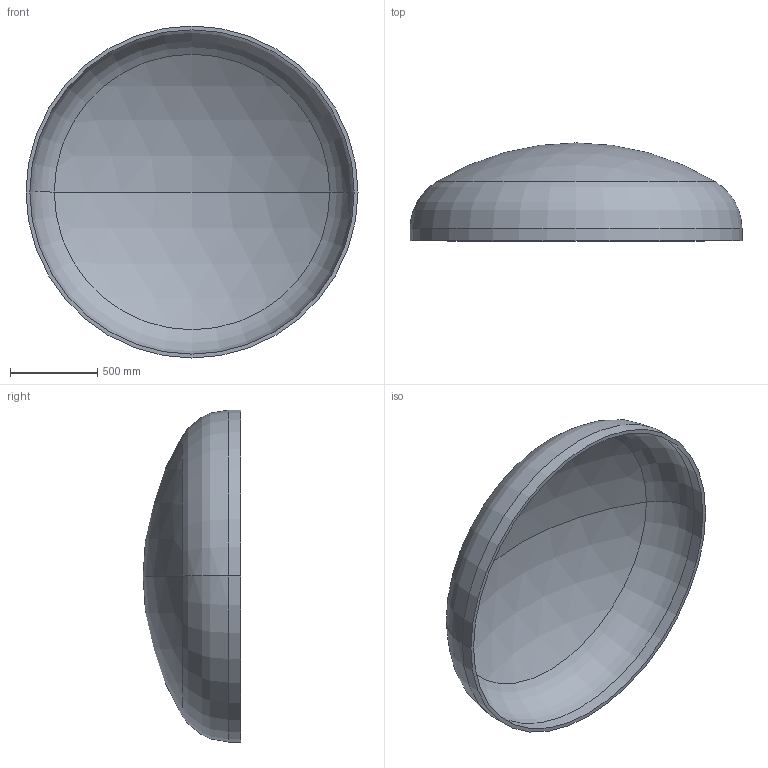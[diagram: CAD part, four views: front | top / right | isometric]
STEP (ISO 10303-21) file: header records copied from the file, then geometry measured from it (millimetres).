
FILE_DESCRIPTION (( 'STEP AP203' ), '1' );
FILE_NAME ('DIN 28013 Korbbogenform_-_Boden DIN 28013 - 1900 x 70 - I - s=22.step', '2016-07-01T13:00:07', ( '' ), ( '' ), 'SwSTEP 2.0', 'SolidWorks 2013', '' );
FILE_SCHEMA (( 'CONFIG_CONTROL_DESIGN' ));
Length unit declared in the file: millimetre
Products named in the file (1): DIN 28013 Korbbogenform_-_Boden DIN 28013 - 1900 x 70 - I - s=22
Bounding box: 1900 x 560.4 x 1900 mm (x, y, z)
Volume: 94015012.1 mm3; surface area: 8677627.9 mm2
Topology: 1 solids, 1 shells, 13 faces, 24 edges, 14 vertices
Faces by surface type: torus 4, cylinder 4, sphere 4, plane 1
Entity records: 407 total; most frequent: DIRECTION 72, CARTESIAN_POINT 52, ORIENTED_EDGE 48, AXIS2_PLACEMENT_3D 34, EDGE_CURVE 24, CIRCLE 20, VERTEX_POINT 14, EDGE_LOOP 14
